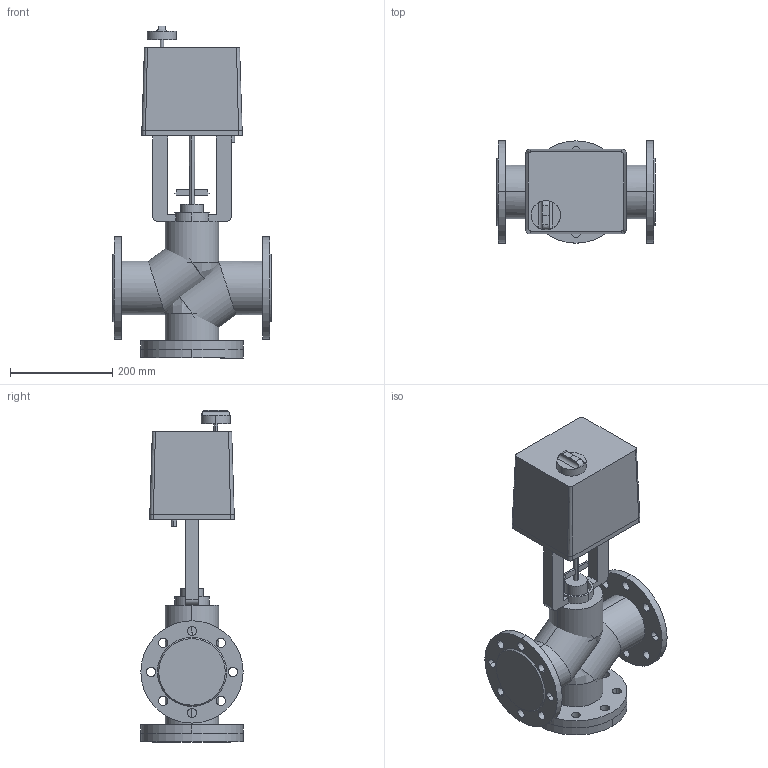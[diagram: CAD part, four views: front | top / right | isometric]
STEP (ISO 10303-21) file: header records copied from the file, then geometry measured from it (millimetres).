
FILE_DESCRIPTION(/* description */ (''),/* implementation_level */ '2;1');
FILE_NAME(/* name */ 'ТРК DN80 PN 1.6 МПа LEA 2500',/* time_stamp */ '2026-07-14T23:11:03+03:00',/* author */ (''),/* organization */ (''),/* preprocessor_version */ 'ST-DEVELOPER v20',/* originating_system */ '',/* authorisation */ '');
FILE_SCHEMA (('AP242_MANAGED_MODEL_BASED_3D_ENGINEERING_MIM_LF { 1 0 10303 442 1 1 4 }'));
Length unit declared in the file: millimetre
Products named in the file (14): TopLevelAssembly; Выдавливание; Модификатор; Модификатор_1; Выдавливание_
1; Выдавливание_
2; Вращение; Выдавливание_
3; Выдавливание_
4; 1600; Переход; Объемная геометрия 
присоединена; Полый Выдавливание; Объемная геометрия 
присоединена_1
Assembly tree (13 placements, depth 2):
  TopLevelAssembly
    Выдавливание
    Модификатор
    Модификатор_1
    Выдавливание_
1
    Выдавливание_
2
    Вращение
    Выдавливание_
3
    Выдавливание_
4
    1600
    Переход
    Объемная геометрия 
присоединена
    Полый Выдавливание
    Объемная геометрия 
присоединена_1
Bounding box: 310 x 200 x 649 mm (x, y, z)
Volume: 12430712.4 mm3; surface area: 921734.4 mm2
Topology: 18 solids, 18 shells, 186 faces, 444 edges, 290 vertices
Faces by surface type: cylinder 96, plane 76, bspline 10, cone 4
Entity records: 6231 total; most frequent: CARTESIAN_POINT 1235, DIRECTION 1052, ORIENTED_EDGE 872, EDGE_CURVE 436, AXIS2_PLACEMENT_3D 425, VERTEX_POINT 290, EDGE_LOOP 244, CIRCLE 214
